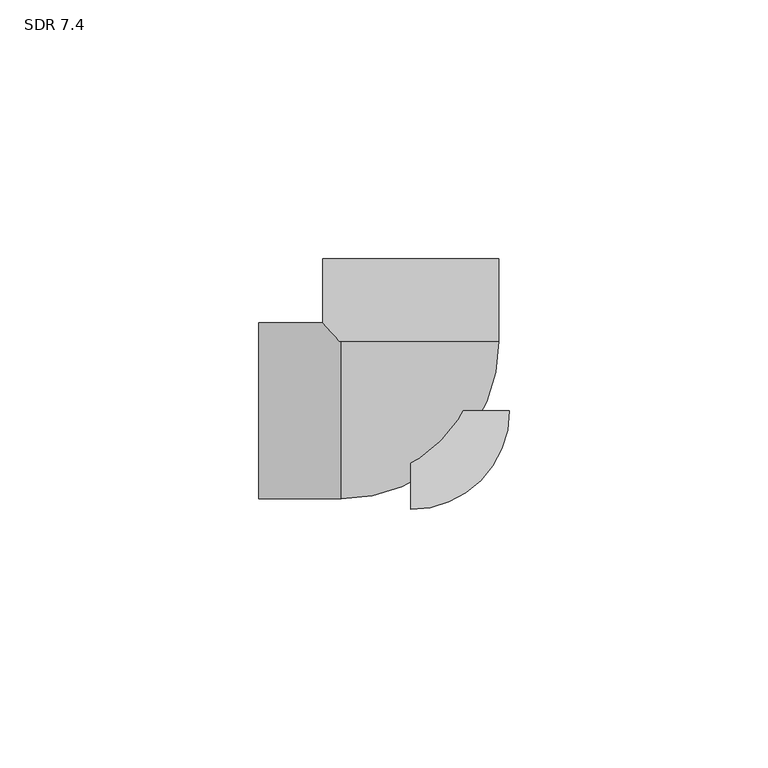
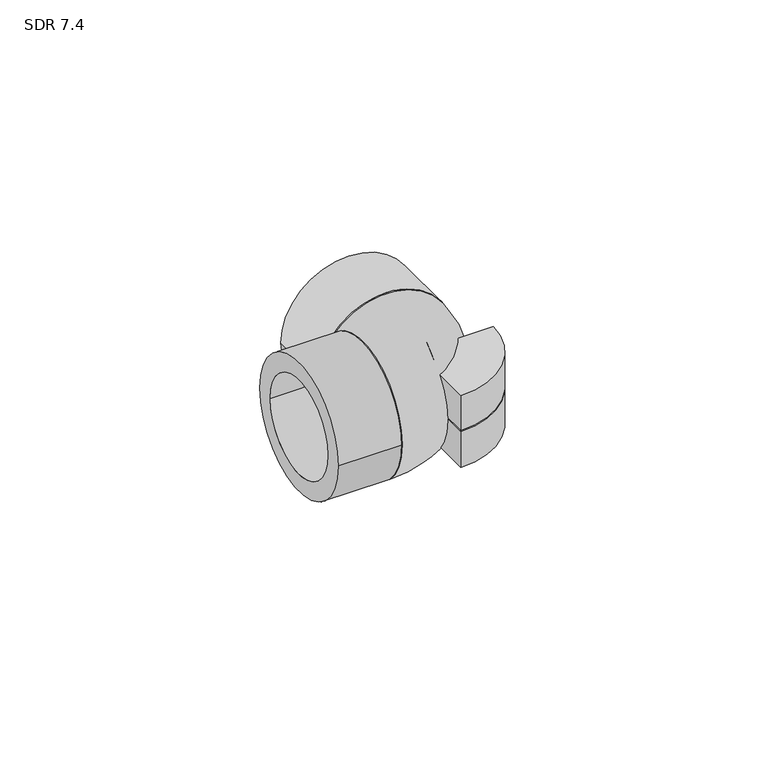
"""IFC4 building model written with IfcOpenShell, lengths in millimetres: pipe fitting geometry, Aquatherm - Elbow Socket : SDR 7.4."""

from ifc_helpers import new_model, si_unit, point, frame, origin, origin_with_axes, origin_2d, place, context, project, spatial, polyline, circle_curve, ellipse_curve, trimmed, segment, composite_curve, outline, extrude, source, transform, mapped, element, save
from ifc_brep_helpers import plane_surface, revolved_surface, advanced_brep


def sdr_7_4_3fad75a3(model_context):
    return source(origin(), model_context, "Body", "SolidModel", [
        extrude(outline(composite_curve([segment(polyline([(0.0, -19.05), (0.0, 0.0), (19.05, 0.0)]), True, "CONTINUOUS"), segment(trimmed(circle_curve(origin_2d(), 19.05), [point((19.05, 0.0))], [point((0.0, -19.05))], False, "CARTESIAN"), True, "CONTINUOUS")], self_intersect=False)), frame((0.0, 0.0, -9.525), z_axis=(0.0, 0.0, 1.0), x_axis=(1.0, 0.0, 0.0)), (0.0, 0.0, 1.0), 9.525),
        extrude(outline(composite_curve([segment(trimmed(circle_curve(origin_2d(), 19.05), [point((19.05, 0.0))], [point((0.0, -19.05))], False, "CARTESIAN"), True, "CONTINUOUS"), segment(polyline([(0.0, -19.05), (0.0, 0.0), (19.05, 0.0)]), True, "CONTINUOUS")], self_intersect=False)), origin_with_axes(), (0.0, 0.0, 1.0), 9.525),
        extrude(outline(composite_curve([segment(trimmed(circle_curve(origin_2d(), 17.018), [point((0.0, 17.018))], [point((0.0, -17.018))], False, "CARTESIAN"), True, "CONTINUOUS"), segment(trimmed(circle_curve(origin_2d(), 17.018), [point((0.0, -17.018))], [point((0.0, 17.018))], False, "CARTESIAN"), True, "CONTINUOUS")], self_intersect=False), holes=[composite_curve([segment(trimmed(circle_curve(origin_2d(), 12.446), [point((0.0, 12.446))], [point((0.0, -12.446))], True, "CARTESIAN"), True, "CONTINUOUS"), segment(trimmed(circle_curve(origin_2d(), 12.446), [point((0.0, -12.446))], [point((0.0, 12.446))], True, "CARTESIAN"), True, "CONTINUOUS")], self_intersect=False)]), frame((0.0, 13.462, 0.0), z_axis=(0.0, 1.0, 0.0), x_axis=(0.0, 0.0, 1.0)), (0.0, 0.0, 1.0), 16.002),
        advanced_brep(
        [(-13.462, 13.462, -10.410902), (-13.462, 13.462, 10.410902), (-13.462, -8.9887778, 0.0), (-13.462, 8.9887778, 0.0), (8.9887778, 13.462, 0.0), (-8.9887778, 13.462, 0.0)],
        [
            (0, 1, circle_curve(frame((-13.462, 0.0, 0.0), z_axis=(-1.0, 0.0, 0.0), x_axis=(0.0, 1.0, 0.0)), 17.018)),
            (1, 0),
            (2, 3, circle_curve(frame((-13.462, 0.0, 0.0), z_axis=(1.0, 0.0, 0.0), x_axis=(0.0, 1.0, 0.0)), 8.9887778)),
            (3, 2, circle_curve(frame((-13.462, 0.0, 0.0), z_axis=(1.0, 0.0, 0.0), x_axis=(0.0, 1.0, 0.0)), 8.9887778)),
            (1, 0, circle_curve(frame((0.0, 13.462, 0.0), z_axis=(0.0, 1.0, 0.0), x_axis=(-1.0, 0.0, 0.0)), 17.018)),
            (4, 5, circle_curve(frame((0.0, 13.462, 0.0), z_axis=(0.0, -1.0, 0.0), x_axis=(-1.0, 0.0, 0.0)), 8.9887778)),
            (5, 4, circle_curve(frame((0.0, 13.462, 0.0), z_axis=(0.0, -1.0, 0.0), x_axis=(-1.0, 0.0, 0.0)), 8.9887778)),
            (5, 3, circle_curve(frame((-13.462, 13.462, 0.0), z_axis=(0.0, 0.0, -1.0), x_axis=(0.0, -1.0, 0.0)), 4.4732222)),
            (2, 4, circle_curve(frame((-13.462, 13.462, 0.0), z_axis=(0.0, 0.0, 1.0), x_axis=(0.0, -1.0, 0.0)), 22.4507778)),
        ],
        [
            plane_surface(frame((-13.462, 13.462, 67.560902), z_axis=(-1.0, 0.0, 0.0), x_axis=(0.0, -1.0, 0.0))),
            plane_surface(frame((-13.462, 13.462, 67.560902), z_axis=(0.0, 1.0, 0.0), x_axis=(1.0, 0.0, 0.0))),
            revolved_surface(trimmed(ellipse_curve(frame((-13.462, 0.0, 0.0), z_axis=(1.0, 0.0, 0.0), x_axis=(0.0, 1.0, 0.0)), 17.018, 17.018), [point((-13.462, 13.462, 10.410902))], [point((-13.462, 13.462, -10.410902))], True, "CARTESIAN"), (-13.462, 13.462, 67.560902), (0.0, 0.0, -1.0)),
            revolved_surface(trimmed(ellipse_curve(frame((-13.462, 0.0, 0.0), z_axis=(-1.0, 0.0, 0.0), x_axis=(0.0, 1.0, 0.0)), 8.9887778, 8.9887778), [point((-13.462, 8.9887778, 0.0))], [point((-13.462, -8.9887778, 0.0))], True, "CARTESIAN"), (-13.462, 13.462, 67.560902), (0.0, 0.0, -1.0)),
            revolved_surface(trimmed(ellipse_curve(frame((-13.462, 0.0, 0.0), z_axis=(-1.0, 0.0, 0.0), x_axis=(0.0, 1.0, 0.0)), 8.9887778, 8.9887778), [point((-13.462, -8.9887778, 0.0))], [point((-13.462, 8.9887778, 0.0))], True, "CARTESIAN"), (-13.462, 13.462, 67.560902), (0.0, 0.0, -1.0)),
        ],
        [
            (0, [[1, 2], [3, 4]]),
            (1, [[5, -2], [6, 7]]),
            (2, [[-1, -5]]),
            (3, [[8, -3, 9, -7]]),
            (4, [[-9, -4, -8, -6]]),
        ],
    ),
        extrude(outline(composite_curve([segment(trimmed(circle_curve(origin_2d(), 17.018), [point((17.018, 0.0))], [point((-17.018, 0.0))], False, "CARTESIAN"), True, "CONTINUOUS"), segment(trimmed(circle_curve(origin_2d(), 17.018), [point((-17.018, 0.0))], [point((17.018, 0.0))], False, "CARTESIAN"), True, "CONTINUOUS")], self_intersect=False), holes=[composite_curve([segment(trimmed(circle_curve(origin_2d(), 12.446), [point((12.446, 0.0))], [point((-12.446, 0.0))], True, "CARTESIAN"), True, "CONTINUOUS"), segment(trimmed(circle_curve(origin_2d(), 12.446), [point((-12.446, 0.0))], [point((12.446, 0.0))], True, "CARTESIAN"), True, "CONTINUOUS")], self_intersect=False)]), frame((-29.464, 0.0, 0.0), z_axis=(1.0, 0.0, 0.0), x_axis=(0.0, 1.0, 0.0)), (0.0, 0.0, 1.0), 16.002),
    ])


if __name__ == "__main__":
    model = new_model("IFC4")
    model_context = context("Model", 3, world=origin())
    ifc_project = project(units=[si_unit("LENGTHUNIT", "METRE", prefix="MILLI")], contexts=[model_context])
    site = spatial("IfcSite", under=ifc_project)
    building = spatial("IfcBuilding", under=site)
    placement = place(None, origin())
    sdr_7_4_shape = sdr_7_4_3fad75a3(model_context)
    element("IfcPipeFitting", 1, ObjectType="Aquatherm - Elbow Socket : SDR 7.4", at=placement, inside=building, context=model_context, shape_type="MappedRepresentation", body=[
        mapped(sdr_7_4_shape, transform((0.0, 0.0, 0.0), x_axis=(1.0, 0.0, 0.0), y_axis=(0.0, 1.0, 0.0), z_axis=(0.0, 0.0, 1.0))),
    ])
    save(model, "model.ifc")
